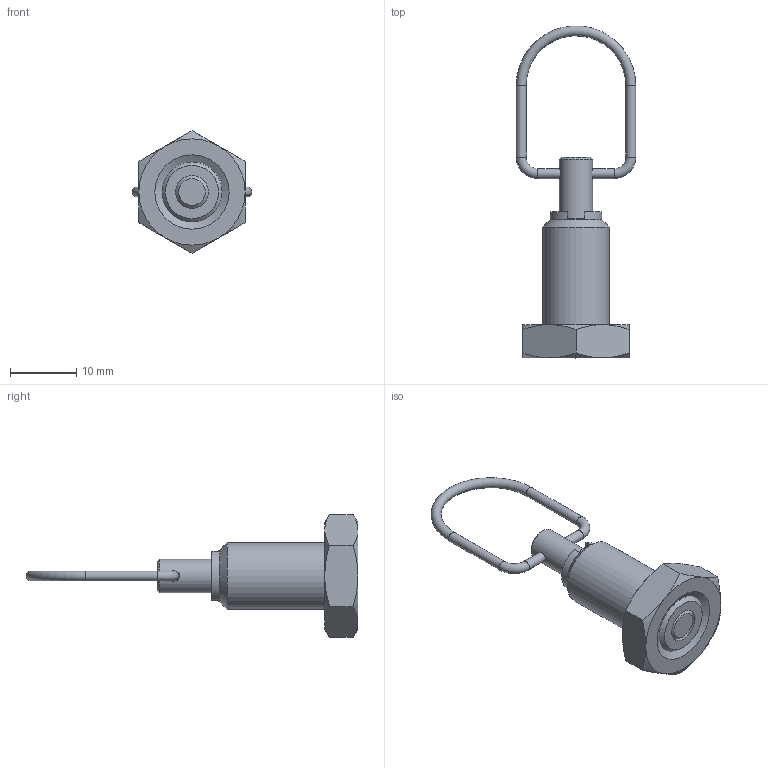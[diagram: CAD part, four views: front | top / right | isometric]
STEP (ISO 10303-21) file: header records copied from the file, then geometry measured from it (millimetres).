
FILE_DESCRIPTION( ( 'STEP AP203' ), '1' );
FILE_NAME( 'C:/Temp/Ganter_Step_05_03_2020/data/3_1/gn_413/gn413_st/gn413_st_ak/Steel-Indexing plunger GN 413-5-M10x1-AK-ST (activated-0).stp', '2020-03-12T09:10:26', ( 'License CC BY-ND 4.0' ), ( 'CADENAS' ), ' ', 'PARTsolutions', ' ' );
FILE_SCHEMA( ( 'CONFIG_CONTROL_DESIGN' ) );
Length unit declared in the file: millimetre
Products named in the file (4): Steel-Indexing plunger GN 413-5-M10x1-AK-ST (activated-0); _Steel-Indexing plunger  GN 413-5-M10x1-AK-ST (activated)_f; _Steel-Indexing plunger GN 413-5-M10x1-AK-ST (activated)_b; _Steel-Indexing plunger GN 413-5-M10x1-AK-ST (activated)_km
Assembly tree (3 placements, depth 2):
  Steel-Indexing plunger GN 413-5-M10x1-AK-ST (activated-0)
    _Steel-Indexing plunger  GN 413-5-M10x1-AK-ST (activated)_f
    _Steel-Indexing plunger GN 413-5-M10x1-AK-ST (activated)_b
    _Steel-Indexing plunger GN 413-5-M10x1-AK-ST (activated)_km
Bounding box: 18 x 49.98 x 18.48 mm (x, y, z)
Volume: 2590.7 mm3; surface area: 2680.8 mm2
Topology: 3 solids, 3 shells, 61 faces, 130 edges, 78 vertices
Faces by surface type: plane 23, cone 21, cylinder 14, torus 3
Full cylindrical faces by diameter (mm): 1.5 x4, 5 x4, 5.3 x1, 6.5 x2, 7.8 x1, 8.917 x1, 10 x1
Entity records: 1735 total; most frequent: CARTESIAN_POINT 423, DIRECTION 254, ORIENTED_EDGE 198, AXIS2_PLACEMENT_3D 116, EDGE_CURVE 99, EDGE_LOOP 96, FACE_OUTER_BOUND 78, VERTEX_POINT 73
